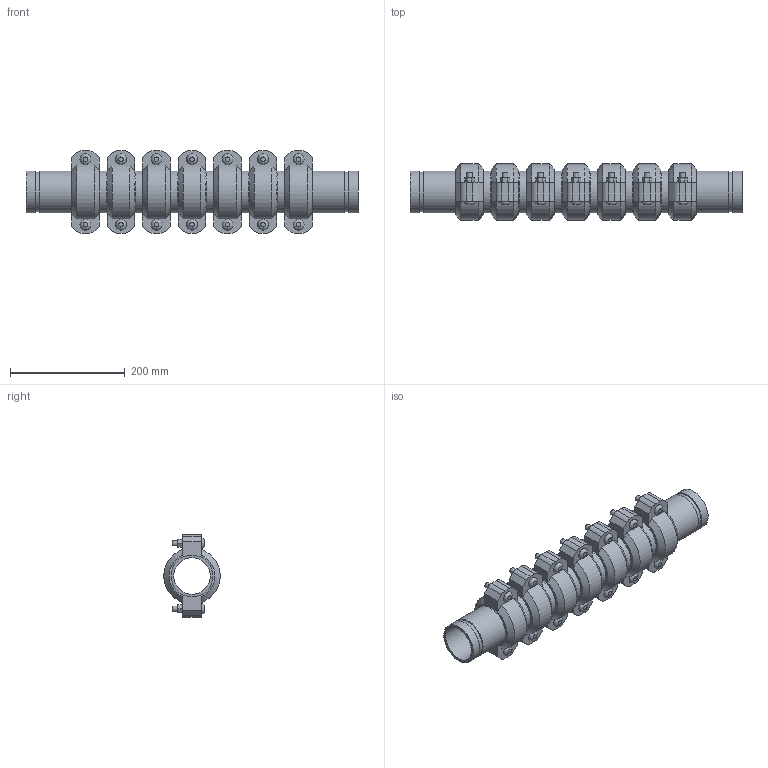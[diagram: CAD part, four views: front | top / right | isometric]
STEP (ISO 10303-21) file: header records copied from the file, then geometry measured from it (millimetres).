
FILE_DESCRIPTION(/* description */ ('VIC SS EXPANSION JOINT 7 COUPLINGS EXPANDED STYLE 155P (OGS) (POTABLE WATER) ','CAx-IF Rec.Pracs.---Representation and Presentation of Product Manufacturing Information (PMI)---4.0---2014-10-13'),/* implementation_level */ '2;1');
FILE_NAME(/* name */ 'C:\Users\kkamble\AppData\Roaming\Autodesk\ApplicationPlugins\Victaulic.Temp\A359\Victaulic_SS_Expansion Joint_Expanded_7 Couplings_Style 155P (OGS)-Potable Water_7 Coup_Expd_2.5 (65).stp',/* time_stamp */ '2021-07-16T16:55:10+05:00',/* author */ ('kkamble'),/* organization */ ('Victaulic'),/* preprocessor_version */ 'ST-DEVELOPER v17.2',/* originating_system */ 'Autodesk Inventor 2019',/* authorisation */ '');
FILE_SCHEMA (('AP242_MANAGED_MODEL_BASED_3D_ENGINEERING_MIM_LF { 1 0 10303 442 1 1 4 }'));
Length unit declared in the file: inch
Products named in the file (4): 155P-02.5; Nipple-02.5; Nipple-02.5_1; 075-02.5
Assembly tree (15 placements, depth 2):
  155P-02.5
    Nipple-02.5  x2
    Nipple-02.5_1  x6
    075-02.5  x7
Bounding box: 579.37 x 98.22 x 144.27 mm (x, y, z)
Volume: 2035627.9 mm3; surface area: 580936.7 mm2
Topology: 15 solids, 29 shells, 495 faces, 1171 edges, 822 vertices
Faces by surface type: plane 300, cylinder 153, cone 28, bspline 14
Full cylindrical faces by diameter (mm): 9.525 x28, 11.43 x14, 63.475 x8, 66.675 x7, 69.088 x16, 73.025 x38
Entity records: 2824 total; most frequent: CARTESIAN_POINT 499, DIRECTION 473, ORIENTED_EDGE 386, EDGE_CURVE 193, AXIS2_PLACEMENT_3D 190, VERTEX_POINT 138, EDGE_LOOP 107, LINE 93
